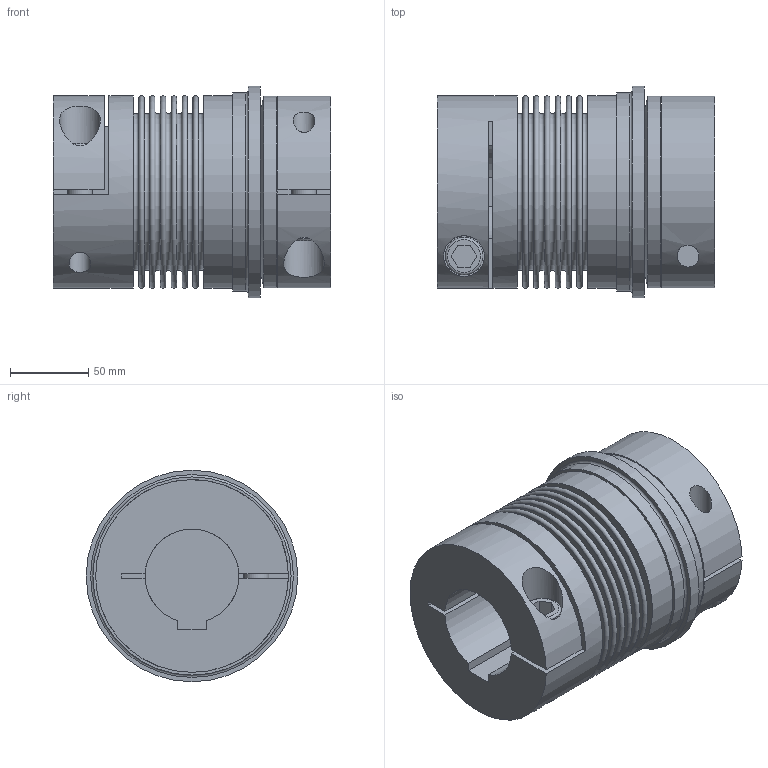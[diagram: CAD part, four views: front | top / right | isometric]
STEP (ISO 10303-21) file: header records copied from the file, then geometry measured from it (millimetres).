
FILE_DESCRIPTION(/* description */ ('STEP AP214'),/* implementation_level */ '2;1');
FILE_NAME(/* name */ 'C:\Diequa Files\DieQua Coupling\TB2\STP\TB2.500.177.WDG.#.#.stp',/* time_stamp */ '2019-04-26T10:39:48-05:00',/* author */ ('DiequaCAD'),/* organization */ (''),/* preprocessor_version */ 'ST-DEVELOPER v18',/* originating_system */ 'Autodesk Inventor 2020',/* authorisation */ ' ');
FILE_SCHEMA (('AUTOMOTIVE_DESIGN { 1 0 10303 214 3 1 1 }'));
Length unit declared in the file: millimetre
Products named in the file (1): TB2.500.177.WDG.#.#
Bounding box: 177 x 135 x 135 mm (x, y, z)
Volume: 1669786.5 mm3; surface area: 205702.9 mm2
Topology: 1 solids, 1 shells, 98 faces, 232 edges, 164 vertices
Faces by surface type: plane 61, cylinder 20, torus 16, cone 1
Full cylindrical faces by diameter (mm): 14 x2, 16 x2, 17.5 x2, 24 x2, 26 x2, 98.7 x1, 122.5 x1, 123 x2, 126.5 x1, 135 x1
Entity records: 3129 total; most frequent: CARTESIAN_POINT 655, DIRECTION 547, ORIENTED_EDGE 464, EDGE_CURVE 232, AXIS2_PLACEMENT_3D 222, VERTEX_POINT 164, EDGE_LOOP 130, CIRCLE 123
